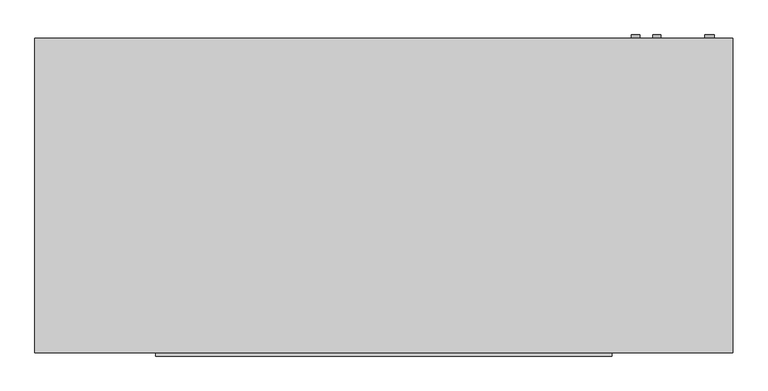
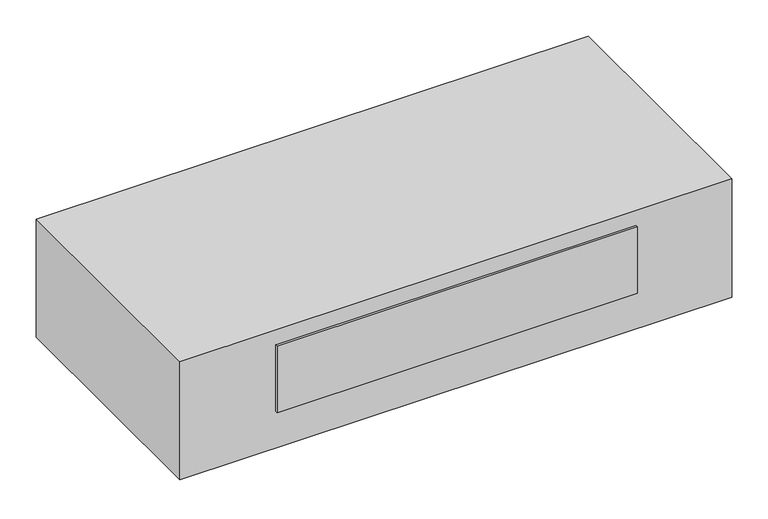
"""IFC4 building model written with IfcOpenShell, lengths in millimetres: proxy geometry, Exposed_Horizontal_Fan_Coil_Unit_-_42CGB_-_CARRIER_-_2-Pipe_Cool-EHeat_FS-BR_RH_2022 : Size 06 - 277v/60Hz/1Ph - 4 Row 6.0kW."""

from ifc_helpers import new_model, si_unit, point, frame, frame_2d, origin, place, context, project, spatial, polyline, circle_curve, trimmed, segment, composite_curve, outline, extrude, source, transform, mapped, element, save


def mechanical_equipment_ac6c5931(model_context):
    return source(origin(), model_context, "Body", "SweptSolid", [
        extrude(outline(composite_curve([segment(trimmed(circle_curve(frame_2d((-60.325, 638.175)), 7.9375), [point((-60.325, 646.1125))], [point((-60.325, 630.2375))], False, "CARTESIAN"), True, "CONTINUOUS"), segment(trimmed(circle_curve(frame_2d((-60.325, 638.175)), 7.9375), [point((-60.325, 630.2375))], [point((-60.325, 646.1125))], False, "CARTESIAN"), True, "CONTINUOUS")], self_intersect=False)), frame((0.0, 65.0875, 0.0), z_axis=(0.0, 1.0, 0.0), x_axis=(0.0, 0.0, 1.0)), (0.0, 0.0, 1.0), 6.35),
        extrude(outline(composite_curve([segment(trimmed(circle_curve(frame_2d((-95.25, 679.45)), 7.9375), [point((-95.25, 687.3875))], [point((-95.25, 671.5125))], False, "CARTESIAN"), True, "CONTINUOUS"), segment(trimmed(circle_curve(frame_2d((-95.25, 679.45)), 7.9375), [point((-95.25, 671.5125))], [point((-95.25, 687.3875))], False, "CARTESIAN"), True, "CONTINUOUS")], self_intersect=False)), frame((0.0, 65.0875, 0.0), z_axis=(0.0, 1.0, 0.0), x_axis=(0.0, 0.0, 1.0)), (0.0, 0.0, 1.0), 6.35),
        extrude(outline(composite_curve([segment(trimmed(circle_curve(frame_2d((-260.35, 781.05)), 9.525), [point((-260.35, 790.575))], [point((-260.35, 771.525))], False, "CARTESIAN"), True, "CONTINUOUS"), segment(trimmed(circle_curve(frame_2d((-260.35, 781.05)), 9.525), [point((-260.35, 771.525))], [point((-260.35, 790.575))], False, "CARTESIAN"), True, "CONTINUOUS")], self_intersect=False)), frame((0.0, 65.0875, 0.0), z_axis=(0.0, 1.0, 0.0), x_axis=(0.0, 0.0, 1.0)), (0.0, 0.0, 1.0), 6.35),
        extrude(outline(polyline([(-520.7, 65.0875), (825.5, 65.0875), (825.5, -541.3375), (-520.7, -541.3375), (-520.7, 65.0875)])), frame((0.0, 0.0, -304.8), z_axis=(0.0, 0.0, 1.0), x_axis=(1.0, 0.0, 0.0)), (0.0, 0.0, 1.0), 304.8),
        extrude(outline(polyline([(592.1375, -547.6875), (-287.3375, -547.6875), (-287.3375, -541.3375), (592.1375, -541.3375), (592.1375, -547.6875)])), frame((0.0, 0.0, -209.55), z_axis=(0.0, 0.0, 1.0), x_axis=(1.0, 0.0, 0.0)), (0.0, 0.0, 1.0), 171.45),
        extrude(outline(polyline([(622.3, -11.1125), (622.3, -265.1125), (-317.5, -265.1125), (-317.5, -11.1125), (622.3, -11.1125)])), frame((0.0, 0.0, -311.15), z_axis=(0.0, 0.0, 1.0), x_axis=(1.0, 0.0, 0.0)), (0.0, 0.0, 1.0), 6.35),
    ])


if __name__ == "__main__":
    model = new_model("IFC4")
    model_context = context("Model", 3, world=origin())
    ifc_project = project(units=[si_unit("LENGTHUNIT", "METRE", prefix="MILLI")], contexts=[model_context])
    site = spatial("IfcSite", under=ifc_project)
    building = spatial("IfcBuilding", under=site)
    placement = place(None, origin())
    mechanical_equipment_shape = mechanical_equipment_ac6c5931(model_context)
    element("IfcBuildingElementProxy", 1, Name="Exposed_Horizontal_Fan_Coil_Unit_-_42CGB_-_CARRIER_-_2-Pipe_Cool-EHeat_FS-BR_RH_2022 : Size 06 - 277v/60Hz/1Ph - 4 Row 6.0kW", ObjectType="Exposed_Horizontal_Fan_Coil_Unit_-_42CGB_-_CARRIER_-_2-Pipe_Cool-EHeat_FS-BR_RH_2022 : Size 06 - 277v/60Hz/1Ph - 4 Row 6.0kW", at=placement, inside=building, context=model_context, shape_type="MappedRepresentation", body=[
        mapped(mechanical_equipment_shape, transform((0.0, 0.0, 0.0), x_axis=(1.0, 0.0, 0.0), y_axis=(0.0, 1.0, 0.0), z_axis=(0.0, 0.0, 1.0))),
    ])
    save(model, "model.ifc")
